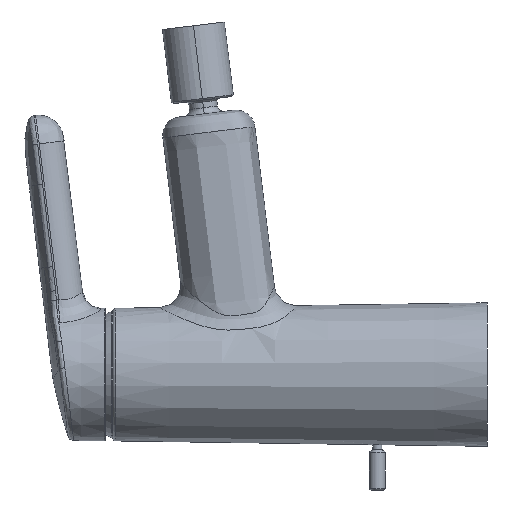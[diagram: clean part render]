
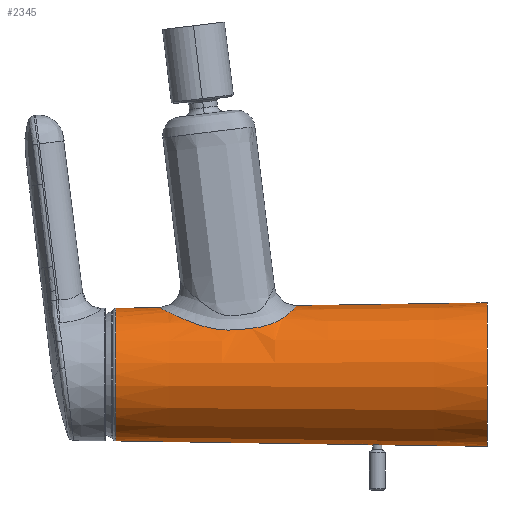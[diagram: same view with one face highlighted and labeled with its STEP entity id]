
A CAD part, left-side view. The second image highlights one B-rep face of the part: STEP entity #2345.
In plain terms, the highlighted conical face has half-angle 0.836 degrees and reference radius 22.132 mm.
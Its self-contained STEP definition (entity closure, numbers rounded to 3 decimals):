
#1=CARTESIAN_POINT('',(0.,36.678,-22.465));
#25=CARTESIAN_POINT('',(0.,33.678,-22.509));
#27=DIRECTION('',(0.,1.,0.015));
#28=VECTOR('',#27,33.682);
#29=CARTESIAN_POINT('',(0.,0.,-23.));
#30=LINE('',#29,#28);
#84=DIRECTION('',(0.,1.,0.015));
#85=VECTOR('',#84,82.345);
#86=CARTESIAN_POINT('',(0.,36.678,-22.465));
#87=LINE('',#86,#85);
#106=CARTESIAN_POINT('',(0.,33.678,-22.509));
#107=CARTESIAN_POINT('',(-0.071,33.678,
-22.509));
#108=CARTESIAN_POINT('',(-0.213,33.688,
-22.508));
#109=CARTESIAN_POINT('',(-0.422,33.734,
-22.504));
#110=CARTESIAN_POINT('',(-0.622,33.808,
-22.499));
#111=CARTESIAN_POINT('',(-0.811,33.91,
-22.491));
#112=CARTESIAN_POINT('',(-0.982,34.038,
-22.482));
#113=CARTESIAN_POINT('',(-1.135,34.189,-22.473));
#114=CARTESIAN_POINT('',(-1.263,34.36,-22.464));
#115=CARTESIAN_POINT('',(-1.367,34.548,-22.455));
#116=CARTESIAN_POINT('',(-1.442,34.748,-22.447));
#117=CARTESIAN_POINT('',(-1.489,34.958,-22.441));
#118=CARTESIAN_POINT('',(-1.505,35.175,-22.437));
#119=CARTESIAN_POINT('',(-1.49,35.391,-22.434));
#120=CARTESIAN_POINT('',(-1.445,35.599,-22.434));
#121=CARTESIAN_POINT('',(-1.371,35.799,-22.436));
#122=CARTESIAN_POINT('',(-1.269,35.988,-22.439));
#123=CARTESIAN_POINT('',(-1.142,36.159,-22.444));
#124=CARTESIAN_POINT('',(-0.99,36.312,
-22.449));
#125=CARTESIAN_POINT('',(-0.82,36.44,
-22.454));
#126=CARTESIAN_POINT('',(-0.631,36.545,
-22.458));
#127=CARTESIAN_POINT('',(-0.427,36.622,
-22.462));
#128=CARTESIAN_POINT('',(-0.214,36.668,
-22.465));
#129=CARTESIAN_POINT('',(-0.071,36.678,
-22.465));
#130=CARTESIAN_POINT('',(0.,36.678,-22.465));
#132=CARTESIAN_POINT('',(0.,119.015,0.));
#133=DIRECTION('',(0.,-1.,0.));
#134=DIRECTION('',(0.,0.,1.));
#135=AXIS2_PLACEMENT_3D('',#132,#133,#134);
#137=DIRECTION('',(0.,1.,-0.015));
#138=VECTOR('',#137,13.964);
#139=CARTESIAN_POINT('',(0.,105.052,21.468));
#140=LINE('',#139,#138);
#141=CARTESIAN_POINT('',(0.,61.099,22.109));
#142=CARTESIAN_POINT('',(-0.568,61.117,22.109));
#143=CARTESIAN_POINT('',(-1.666,61.164,22.064));
#144=CARTESIAN_POINT('',(-3.167,61.296,21.895));
#145=CARTESIAN_POINT('',(-4.589,61.496,21.637));
#146=CARTESIAN_POINT('',(-5.941,61.771,21.3));
#147=CARTESIAN_POINT('',(-7.203,62.117,20.9));
#148=CARTESIAN_POINT('',(-8.355,62.531,20.458));
#149=CARTESIAN_POINT('',(-9.413,63.015,19.985));
#150=CARTESIAN_POINT('',(-10.382,63.571,19.488));
#151=CARTESIAN_POINT('',(-11.268,64.2,18.978));
#152=CARTESIAN_POINT('',(-12.073,64.903,18.463));
#153=CARTESIAN_POINT('',(-12.79,65.671,17.959));
#154=CARTESIAN_POINT('',(-13.439,66.522,17.462));
#155=CARTESIAN_POINT('',(-14.034,67.481,16.969));
#156=CARTESIAN_POINT('',(-14.558,68.529,16.5));
#157=CARTESIAN_POINT('',(-15.007,69.658,16.069));
#158=CARTESIAN_POINT('',(-15.373,70.846,15.693));
#159=CARTESIAN_POINT('',(-15.676,72.145,15.364));
#160=CARTESIAN_POINT('',(-15.931,73.705,15.065));
#161=CARTESIAN_POINT('',(-16.11,75.429,14.835));
#162=CARTESIAN_POINT('',(-16.239,76.881,14.663));
#163=CARTESIAN_POINT('',(-16.384,78.591,14.463));
#164=CARTESIAN_POINT('',(-16.491,80.597,14.296));
#165=CARTESIAN_POINT('',(-16.498,82.591,14.242));
#166=CARTESIAN_POINT('',(-16.412,84.355,14.303));
#167=CARTESIAN_POINT('',(-16.242,86.054,14.46));
#168=CARTESIAN_POINT('',(-15.981,87.703,14.713));
#169=CARTESIAN_POINT('',(-15.628,89.318,15.055));
#170=CARTESIAN_POINT('',(-15.124,91.088,15.529));
#171=CARTESIAN_POINT('',(-14.438,92.986,16.135));
#172=CARTESIAN_POINT('',(-13.568,94.934,16.842));
#173=CARTESIAN_POINT('',(-12.523,96.856,17.6));
#174=CARTESIAN_POINT('',(-11.49,98.435,18.261));
#175=CARTESIAN_POINT('',(-10.443,99.783,18.858));
#176=CARTESIAN_POINT('',(-9.356,100.962,19.401));
#177=CARTESIAN_POINT('',(-8.272,101.953,19.87));
#178=CARTESIAN_POINT('',(-7.205,102.773,20.268));
#179=CARTESIAN_POINT('',(-6.167,103.436,20.597));
#180=CARTESIAN_POINT('',(-5.162,103.96,20.863));
#181=CARTESIAN_POINT('',(-4.188,104.362,21.073));
#182=CARTESIAN_POINT('',(-3.254,104.653,21.233));
#183=CARTESIAN_POINT('',(-2.271,104.866,21.358));
#184=CARTESIAN_POINT('',(-1.224,105.004,21.443));
#185=CARTESIAN_POINT('',(-0.422,105.045,21.468));
#186=CARTESIAN_POINT('',(0.,105.052,21.468));
#188=DIRECTION('',(0.,1.,-0.015));
#189=VECTOR('',#188,61.106);
#190=CARTESIAN_POINT('',(0.,0.,23.));
#191=LINE('',#190,#189);
#2010=CARTESIAN_POINT('',(0.,0.,0.));
#2011=DIRECTION('',(0.,1.,0.));
#2012=DIRECTION('',(0.,0.,-1.));
#2013=AXIS2_PLACEMENT_3D('',#2010,#2011,#2012);
#2093=CARTESIAN_POINT('',(0.,0.,23.));
#2094=CARTESIAN_POINT('',(0.,0.,-23.));
#2095=VERTEX_POINT('',#2093);
#2096=VERTEX_POINT('',#2094);
#2097=VERTEX_POINT('',#141);
#2098=VERTEX_POINT('',#186);
#2101=CARTESIAN_POINT('',(0.,119.015,21.264));
#2102=CARTESIAN_POINT('',(0.,119.015,-21.264));
#2103=VERTEX_POINT('',#2101);
#2104=VERTEX_POINT('',#2102);
#2268=VERTEX_POINT('',#1);
#2269=VERTEX_POINT('',#25);
#2327=CARTESIAN_POINT('',(0.,59.507,0.));
#2328=DIRECTION('',(0.,-1.,0.));
#2329=DIRECTION('',(0.,0.,1.));
#2330=AXIS2_PLACEMENT_3D('',#2327,#2328,#2329);
#2331=CONICAL_SURFACE('',#2330,22.132,0.836);
#2332=ORIENTED_EDGE('',*,*,#2318,.T.);
#2333=ORIENTED_EDGE('',*,*,#2293,.T.);
#2335=ORIENTED_EDGE('',*,*,#2334,.F.);
#2336=ORIENTED_EDGE('',*,*,#2289,.F.);
#2338=ORIENTED_EDGE('',*,*,#2337,.F.);
#2339=ORIENTED_EDGE('',*,*,#2285,.F.);
#2341=ORIENTED_EDGE('',*,*,#2340,.F.);
#2342=ORIENTED_EDGE('',*,*,#2281,.T.);
#2343=EDGE_LOOP('',(#2332,#2333,#2335,#2336,#2338,#2339,#2341,#2342));
#2344=FACE_OUTER_BOUND('',#2343,.F.);
#2345=ADVANCED_FACE('',(#2344),#2331,.T.);
#131=B_SPLINE_CURVE_WITH_KNOTS('',3,(#106,#107,#108,#109,#110,#111,#112,#113,
#114,#115,#116,#117,#118,#119,#120,#121,#122,#123,#124,#125,#126,#127,#128,#129,
#130),.UNSPECIFIED.,.F.,.F.,(4,1,1,1,1,1,1,1,1,1,1,1,1,1,1,1,1,1,1,1,1,1,4),(
0.,0.045,0.091,0.136,0.182,
0.227,0.273,0.318,0.364,
0.409,0.455,0.5,0.545,0.591,
0.636,0.682,0.727,0.773,
0.818,0.864,0.909,0.955,1.),
.UNSPECIFIED.);
#136=CIRCLE('',#135,21.264);
#187=B_SPLINE_CURVE_WITH_KNOTS('',3,(#141,#142,#143,#144,#145,#146,#147,#148,
#149,#150,#151,#152,#153,#154,#155,#156,#157,#158,#159,#160,#161,#162,#163,#164,
#165,#166,#167,#168,#169,#170,#171,#172,#173,#174,#175,#176,#177,#178,#179,#180,
#181,#182,#183,#184,#185,#186),.UNSPECIFIED.,.F.,.F.,(4,1,1,1,1,1,1,1,1,1,1,1,1,
1,1,1,1,1,1,1,1,1,1,1,1,1,1,1,1,1,1,1,1,1,1,1,1,1,1,1,1,1,1,4),(0.,
0.023,0.047,0.07,0.093,
0.116,0.14,0.163,0.186,
0.209,0.233,0.256,0.279,
0.302,0.326,0.349,0.372,
0.395,0.419,0.442,0.465,
0.488,0.512,0.535,0.558,
0.581,0.605,0.628,0.651,
0.674,0.698,0.721,0.744,
0.767,0.791,0.814,0.837,
0.86,0.884,0.907,0.93,
0.953,0.977,1.),.UNSPECIFIED.);
#2014=CIRCLE('',#2013,23.);
#2281=EDGE_CURVE('',#2096,#2269,#30,.T.);
#2285=EDGE_CURVE('',#2095,#2097,#191,.T.);
#2289=EDGE_CURVE('',#2098,#2103,#140,.T.);
#2293=EDGE_CURVE('',#2268,#2104,#87,.T.);
#2318=EDGE_CURVE('',#2269,#2268,#131,.T.);
#2334=EDGE_CURVE('',#2103,#2104,#136,.T.);
#2337=EDGE_CURVE('',#2097,#2098,#187,.T.);
#2340=EDGE_CURVE('',#2096,#2095,#2014,.T.);
